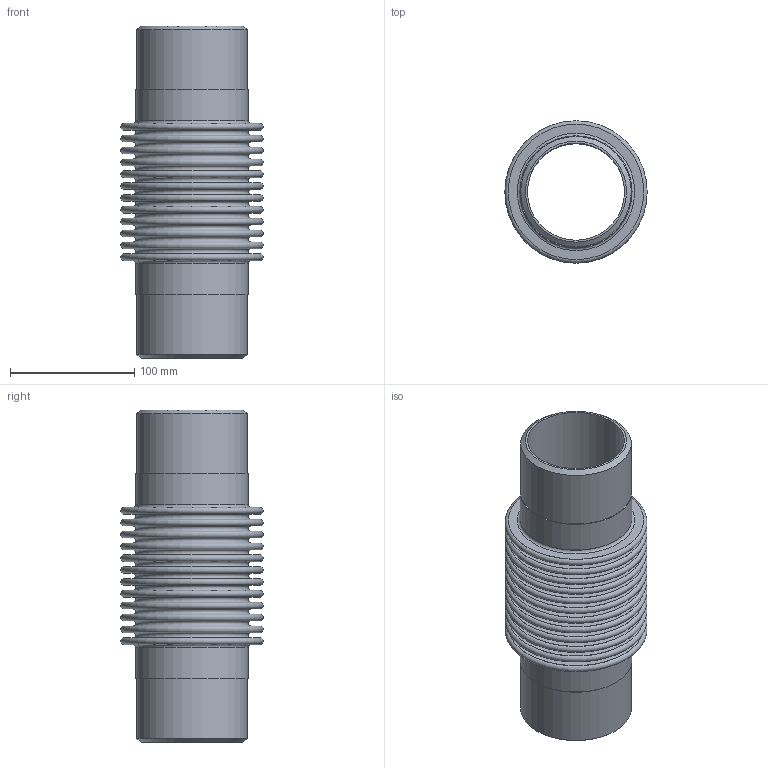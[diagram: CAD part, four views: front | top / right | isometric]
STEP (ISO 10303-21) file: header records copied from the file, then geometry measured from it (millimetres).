
FILE_DESCRIPTION(/* description */ ('EXPANSION JOINT,SINGLE, WELD ENDS,4 INCH NOMINAL'),/* implementation_level */ '2;1');
FILE_NAME(/* name */ 'ASSEMBLY US-3-12-85L.stp',/* time_stamp */ '2026-07-28T15:38:25-05:00',/* author */ ('jorgef'),/* organization */ (''),/* preprocessor_version */ 'ST-DEVELOPER v20.1',/* originating_system */ 'Autodesk Inventor 2026',/* authorisation */ '');
FILE_SCHEMA (('AUTOMOTIVE_DESIGN { 1 0 10303 214 3 1 1 }'));
Length unit declared in the file: inch
Products named in the file (3): ASSEMBLY  US-3-12-85L; STOCK BELLOW - US-3-12-85L; PIPE- US-3-12-85L
Assembly tree (3 placements, depth 2):
  ASSEMBLY  US-3-12-85L
    STOCK BELLOW - US-3-12-85L
    PIPE- US-3-12-85L  x2
Bounding box: 114.3 x 114.3 x 266.7 mm (x, y, z)
Volume: 293808.6 mm3; surface area: 340978.9 mm2
Topology: 5 solids, 5 shells, 118 faces, 180 edges, 121 vertices
Faces by surface type: plane 58, torus 50, cylinder 8, cone 2
Full cylindrical faces by diameter (mm): 77.927 x2, 88.9 x4, 90.119 x2
Entity records: 2769 total; most frequent: DIRECTION 573, CARTESIAN_POINT 405, ORIENTED_EDGE 342, AXIS2_PLACEMENT_3D 283, EDGE_CURVE 171, EDGE_LOOP 169, CIRCLE 164, VERTEX_POINT 114
